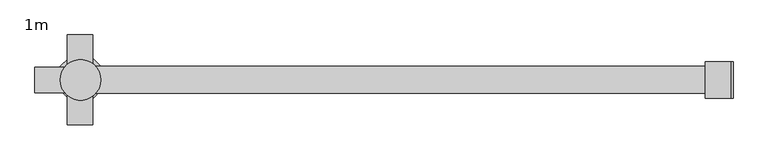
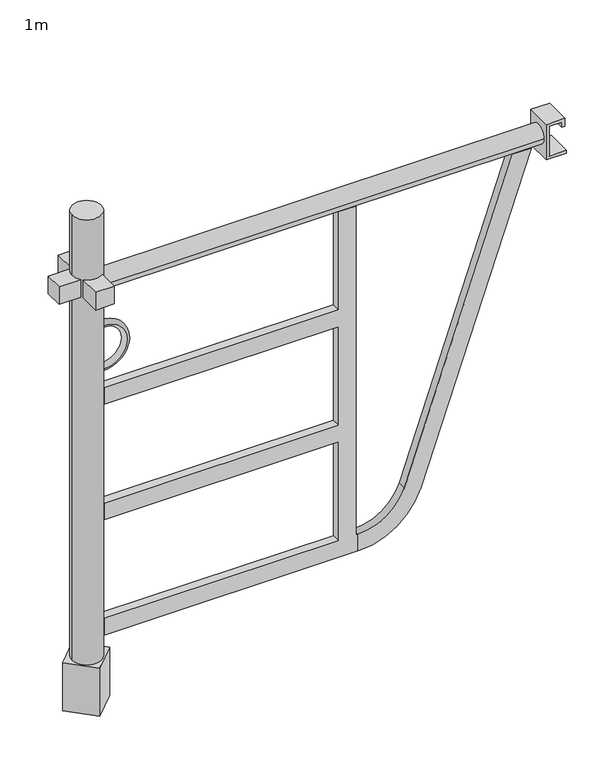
"""IFC4 building model written with IfcOpenShell, lengths in millimetres: proxy geometry, MILLS_TOEC_CADRE_S : 1m."""

from ifc_helpers import new_model, si_unit, point, frame, frame_2d, origin, origin_with_axes, place, context, project, spatial, polyline, circle_curve, ellipse_curve, trimmed, segment, composite_curve, outline, extrude, source, transform, mapped, element, save
from ifc_brep_helpers import plane_surface, revolved_surface, advanced_brep


def proxy_1m_ea16eeb2(model_context):
    return source(origin(), model_context, "Body", "SolidModel", [
        extrude(outline(composite_curve([segment(trimmed(circle_curve(frame_2d((209.9656006, -954.8228384)), 136.0), [point((73.9656006, -954.8228384))], [point((165.6883316, -826.2323122))], False, "CARTESIAN"), True, "CONTINUOUS"), segment(polyline([(165.6883316, -826.2323122), (822.1050295, -600.2099172), (822.1050295, -638.2842618), (177.4087851, -860.2709809)]), True, "CONTINUOUS"), segment(trimmed(circle_curve(frame_2d((209.9656006, -954.8228384)), 100.0), [point((177.4087851, -860.2709809))], [point((109.9656006, -954.8228384))], True, "CARTESIAN"), True, "CONTINUOUS"), segment(polyline([(109.9656006, -954.8228384), (73.9656006, -954.8228384)]), True, "CONTINUOUS")], self_intersect=False)), frame((0.0, -9.0, 0.0), z_axis=(0.0, 1.0, 0.0), x_axis=(0.0, 0.0, 1.0)), (0.0, 0.0, 1.0), 18.0),
        extrude(outline(polyline([(610.1105711, -1476.293809), (574.1105711, -1476.293809), (574.1105711, -994.9191891), (360.1105711, -994.9191891), (360.1105711, -1476.293809), (324.1105711, -1476.293809), (324.1105711, -994.9191891), (110.1105711, -994.9191891), (110.1105711, -1476.3799635), (73.82063, -1476.3799635), (73.82063, -954.8228384), (110.1105711, -954.8228384), (110.1105711, -958.9191891), (822.25, -958.9191891), (822.25, -994.9191891), (610.1105711, -994.9191891), (610.1105711, -1476.293809)])), frame((0.0, -9.0, 0.0), z_axis=(0.0, 1.0, 0.0), x_axis=(0.0, 0.0, 1.0)), (0.0, 0.0, 1.0), 18.0),
        extrude(outline(polyline([(800.65, -579.5299635), (800.65, -537.8499635), (806.65, -537.8499635), (806.65, -573.5299635), (871.25, -573.5299635), (871.25, -547.5299635), (860.25, -547.5299635), (860.25, -541.5299635), (877.25, -541.5299635), (877.25, -579.5299635), (800.65, -579.5299635)])), frame((0.0, -26.9, 0.0), z_axis=(0.0, 1.0, 0.0), x_axis=(0.0, 0.0, 1.0)), (0.0, 0.0, 1.0), 53.8),
        advanced_brep(
        [(-1478.6361082, -7.0, 743.0), (-1478.6361082, 7.0, 743.0), (-1478.1654075, -7.0, 649.4331908), (-1478.1654075, 7.0, 649.4331908)],
        [
            (0, 1, circle_curve(frame((-1478.6361082, 0.0, 743.0), z_axis=(-0.9949098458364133, 0.0, -0.10076903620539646), x_axis=(0.0, 1.0, 0.0)), 7.0)),
            (1, 0, circle_curve(frame((-1478.6361082, 0.0, 743.0), z_axis=(-0.9949098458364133, 0.0, -0.10076903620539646), x_axis=(0.0, 1.0, 0.0)), 7.0)),
            (2, 3, circle_curve(frame((-1478.1654075, 0.0, 649.4331908), z_axis=(-0.9958733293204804, 0.0, 0.0907541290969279), x_axis=(0.0, 1.0, 0.0)), 7.0)),
            (3, 2, circle_curve(frame((-1478.1654075, 0.0, 649.4331908), z_axis=(-0.9958733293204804, 0.0, 0.0907541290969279), x_axis=(0.0, 1.0, 0.0)), 7.0)),
            (3, 1, circle_curve(frame((-1473.8999635, 7.0, 696.2392372), z_axis=(0.0, -1.0, 0.0), x_axis=(-0.10076903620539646, 0.0, 0.9949098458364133)), 47.0)),
            (0, 2, circle_curve(frame((-1473.8999635, -7.0, 696.2392372), z_axis=(0.0, 1.0, 0.0), x_axis=(-0.10076903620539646, 0.0, 0.9949098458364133)), 47.0)),
        ],
        [
            plane_surface(frame((-1473.8999635, -96.742949, 696.2392372), z_axis=(-0.9949098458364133, 0.0, -0.10076903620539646), x_axis=(-0.10076903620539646, 0.0, 0.9949098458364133))),
            plane_surface(frame((-1473.8999635, -96.742949, 696.2392372), z_axis=(-0.9958733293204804, 0.0, 0.0907541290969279), x_axis=(-0.0907541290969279, 0.0, -0.9958733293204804))),
            revolved_surface(trimmed(ellipse_curve(frame((-1478.6361082, 0.0, 743.0), z_axis=(0.9949098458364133, 0.0, 0.10076903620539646), x_axis=(0.0, 1.0, 0.0)), 7.0, 7.0), [point((-1478.6361082, 7.0, 743.0))], [point((-1478.6361082, -7.0, 743.0))], True, "CARTESIAN"), (-1473.8999635, -96.742949, 696.2392372), (0.0, -1.0, 0.0)),
            revolved_surface(trimmed(ellipse_curve(frame((-1478.6361082, 0.0, 743.0), z_axis=(0.9949098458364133, 0.0, 0.10076903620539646), x_axis=(0.0, 1.0, 0.0)), 7.0, 7.0), [point((-1478.6361082, -7.0, 743.0))], [point((-1478.6361082, 7.0, 743.0))], True, "CARTESIAN"), (-1473.8999635, -96.742949, 696.2392372), (0.0, -1.0, 0.0)),
        ],
        [
            (0, [[1, 2]]),
            (1, [[3, 4]]),
            (2, [[5, -1, 6, -4]]),
            (3, [[-6, -2, -5, -3]]),
        ],
    ),
        extrude(outline(polyline([(-1488.5299635, 66.75), (-1488.5299635, -66.75), (-1526.5299635, -66.75), (-1526.5299635, -19.0), (-1574.2799635, -19.0), (-1574.2799635, 19.0), (-1526.5299635, 19.0), (-1526.5299635, 66.75), (-1488.5299635, 66.75)])), frame((0.0, 0.0, 831.0), z_axis=(0.0, 0.0, 1.0), x_axis=(1.0, 0.0, 0.0)), (0.0, 0.0, 1.0), 38.0),
        extrude(outline(composite_curve([segment(trimmed(circle_curve(frame_2d((0.0, 842.25)), 20.0), [point((-20.0, 842.25))], [point((20.0, 842.25))], False, "CARTESIAN"), True, "CONTINUOUS"), segment(trimmed(circle_curve(frame_2d((0.0, 842.25)), 20.0), [point((20.0, 842.25))], [point((-20.0, 842.25))], False, "CARTESIAN"), True, "CONTINUOUS")], self_intersect=False)), frame((-1506.5299635, 0.0, 0.0), z_axis=(1.0, 0.0, 0.0), x_axis=(0.0, 1.0, 0.0)), (0.0, 0.0, 1.0), 927.0),
        extrude(outline(polyline([(-1458.4467023, 2.326947), (-1506.5299635, -45.7563141), (-1554.6132246, 2.326947), (-1506.5299635, 50.4102081), (-1458.4467023, 2.326947)])), frame((0.0, 0.0, -69.0), z_axis=(0.0, 0.0, 1.0), x_axis=(1.0, 0.0, 0.0)), (0.0, 0.0, 1.0), 104.0),
        extrude(outline(composite_curve([segment(trimmed(circle_curve(frame_2d((-1506.5299635, 0.0)), 30.15), [point((-1536.6799635, 0.0))], [point((-1476.3799635, 0.0))], False, "CARTESIAN"), True, "CONTINUOUS"), segment(trimmed(circle_curve(frame_2d((-1506.5299635, 0.0)), 30.15), [point((-1476.3799635, 0.0))], [point((-1536.6799635, 0.0))], False, "CARTESIAN"), True, "CONTINUOUS")], self_intersect=False)), origin_with_axes(), (0.0, 0.0, 1.0), 1000.0),
    ])


if __name__ == "__main__":
    model = new_model("IFC4")
    model_context = context("Model", 3, world=origin())
    ifc_project = project(units=[si_unit("LENGTHUNIT", "METRE", prefix="MILLI")], contexts=[model_context])
    site = spatial("IfcSite", under=ifc_project)
    building = spatial("IfcBuilding", under=site)
    placement = place(None, origin())
    proxy_1m_shape = proxy_1m_ea16eeb2(model_context)
    element("IfcBuildingElementProxy", 1, Name="MILLS_TOEC_CADRE_S : 1m", ObjectType="MILLS_TOEC_CADRE_S : 1m", at=placement, inside=building, context=model_context, shape_type="MappedRepresentation", body=[
        mapped(proxy_1m_shape, transform((0.0, 0.0, 0.0), x_axis=(1.0, 0.0, 0.0), y_axis=(0.0, 1.0, 0.0), z_axis=(0.0, 0.0, 1.0))),
    ])
    save(model, "model.ifc")
